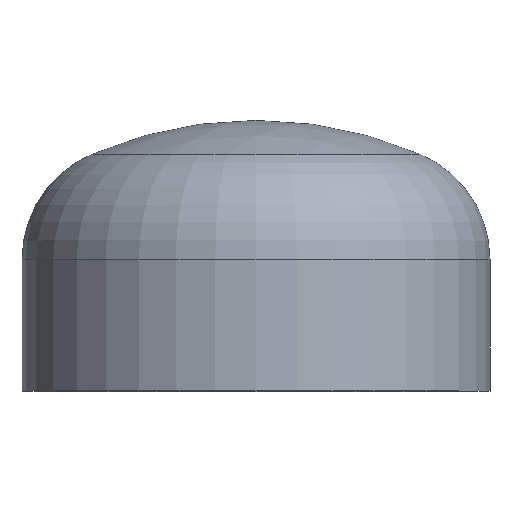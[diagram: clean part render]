
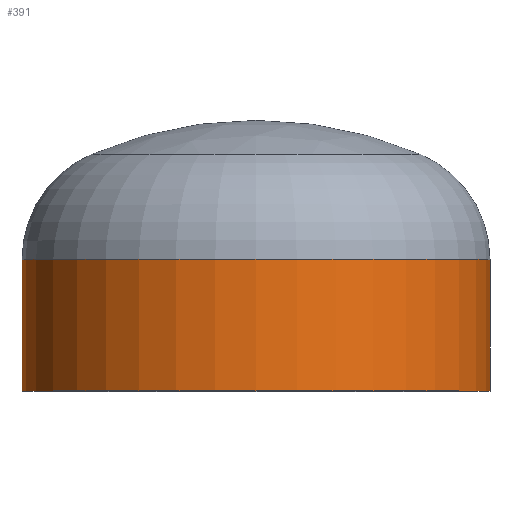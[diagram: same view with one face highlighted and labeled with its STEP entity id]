
A CAD part, top view. The second image highlights one B-rep face of the part: STEP entity #391.
In plain terms, the highlighted cylindrical face has radius 177.8 mm (diameter 355.6 mm), a partial arc.
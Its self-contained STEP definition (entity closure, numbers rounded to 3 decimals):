
#19 = VERTEX_POINT ( 'NONE', #247 ) ;
#25 = AXIS2_PLACEMENT_3D ( 'NONE', #394, #167, #91 ) ;
#26 = AXIS2_PLACEMENT_3D ( 'NONE', #200, #185, #188 ) ;
#33 = ORIENTED_EDGE ( 'NONE', *, *, #270, .T. ) ;
#50 = EDGE_CURVE ( 'NONE', #81, #19, #329, .T. ) ;
#57 = ORIENTED_EDGE ( 'NONE', *, *, #363, .F. ) ;
#65 = CYLINDRICAL_SURFACE ( 'NONE', #166, 177.8 ) ;
#74 = EDGE_CURVE ( 'NONE', #147, #19, #378, .T. ) ;
#76 = ORIENTED_EDGE ( 'NONE', *, *, #50, .T. ) ;
#81 = VERTEX_POINT ( 'NONE', #294 ) ;
#91 = DIRECTION ( 'NONE',  ( 1., 0., 0. ) ) ;
#100 = CARTESIAN_POINT ( 'NONE',  ( 177.8, 0., 0. ) ) ;
#147 = VERTEX_POINT ( 'NONE', #229 ) ;
#149 = DIRECTION ( 'NONE',  ( 0., -1., 0. ) ) ;
#158 = EDGE_LOOP ( 'NONE', ( #33, #76, #162, #57 ) ) ;
#162 = ORIENTED_EDGE ( 'NONE', *, *, #74, .F. ) ;
#166 = AXIS2_PLACEMENT_3D ( 'NONE', #307, #256, #309 ) ;
#167 = DIRECTION ( 'NONE',  ( 0., -1., 0. ) ) ;
#170 = VERTEX_POINT ( 'NONE', #193 ) ;
#184 = VECTOR ( 'NONE', #149, 1000. ) ;
#185 = DIRECTION ( 'NONE',  ( 0., -1., 0. ) ) ;
#188 = DIRECTION ( 'NONE',  ( 1., 0., 0. ) ) ;
#193 = CARTESIAN_POINT ( 'NONE',  ( 177.8, 100., 0. ) ) ;
#200 = CARTESIAN_POINT ( 'NONE',  ( 0., 0., 0. ) ) ;
#229 = CARTESIAN_POINT ( 'NONE',  ( 177.8, 0., 0. ) ) ;
#245 = CARTESIAN_POINT ( 'NONE',  ( -177.8, 0., 0. ) ) ;
#246 = FACE_OUTER_BOUND ( 'NONE', #158, .T. ) ;
#247 = CARTESIAN_POINT ( 'NONE',  ( -177.8, 0., 0. ) ) ;
#256 = DIRECTION ( 'NONE',  ( 0., -1., 0. ) ) ;
#258 = VECTOR ( 'NONE', #373, 1000. ) ;
#270 = EDGE_CURVE ( 'NONE', #170, #81, #407, .T. ) ;
#294 = CARTESIAN_POINT ( 'NONE',  ( -177.8, 100., 0. ) ) ;
#307 = CARTESIAN_POINT ( 'NONE',  ( 0., 0., 0. ) ) ;
#309 = DIRECTION ( 'NONE',  ( 1., 0., 0. ) ) ;
#329 = LINE ( 'NONE', #245, #258 ) ;
#363 = EDGE_CURVE ( 'NONE', #170, #147, #389, .T. ) ;
#373 = DIRECTION ( 'NONE',  ( 0., -1., 0. ) ) ;
#378 = CIRCLE ( 'NONE', #26, 177.8 ) ;
#389 = LINE ( 'NONE', #100, #184 ) ;
#391 = ADVANCED_FACE ( 'NONE', ( #246 ), #65, .T. ) ;
#394 = CARTESIAN_POINT ( 'NONE',  ( 0., 100., 0. ) ) ;
#407 = CIRCLE ( 'NONE', #25, 177.8 ) ;
